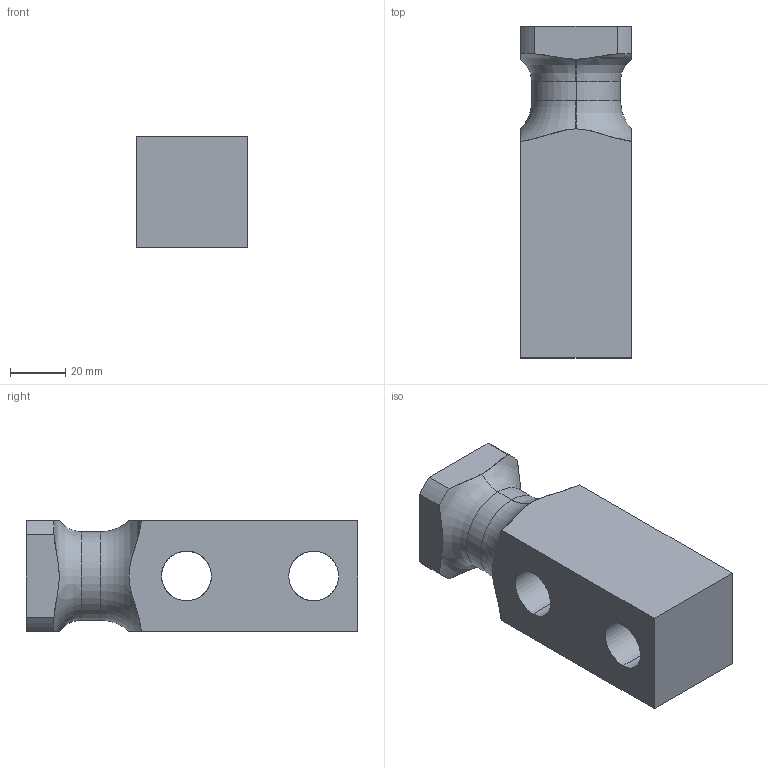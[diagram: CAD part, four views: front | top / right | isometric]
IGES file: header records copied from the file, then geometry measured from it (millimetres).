
Start section: START RECORD GO HERE.
Global section: file name: 395V-04-040-120.igs; native system: DASSAULT SYSTEMES CATIA V5 R20 - www.3ds.com; preprocessor: CATIA Version 5 Release 20 ; author: Utente; organization: NB04-ASUS; date: 20200410.132133; units: millimetre
Bounding box: 40 x 120 x 40 mm (x, y, z)
Surface area: 25766.4 mm2 (no closed solid volume)
Topology: 0 solids, 0 shells, 30 faces, 158 edges, 158 vertices
Faces by surface type: revolution 18, extrusion 12
